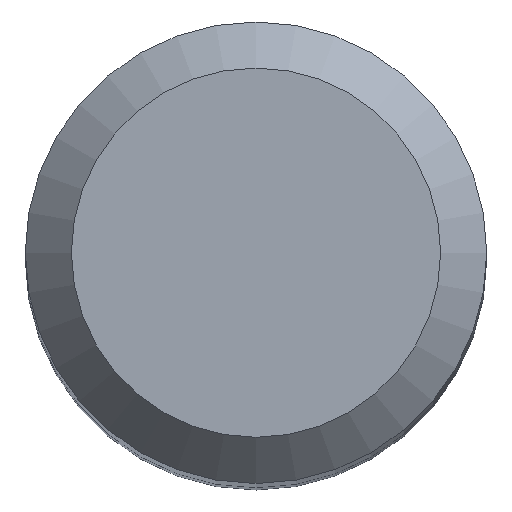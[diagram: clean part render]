
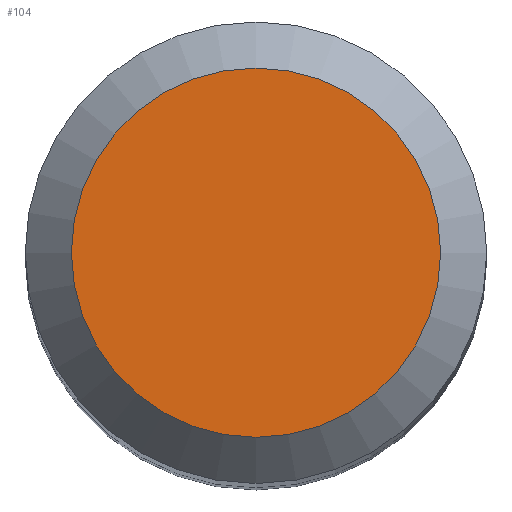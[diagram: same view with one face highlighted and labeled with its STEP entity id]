
A CAD part, top view. The second image highlights one B-rep face of the part: STEP entity #104.
In plain terms, the highlighted planar face has unit normal (0, 0, 1).
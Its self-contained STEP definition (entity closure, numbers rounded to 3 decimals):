
#88=CARTESIAN_POINT('',(3.2,0.0,65.0));
#89=DIRECTION('',(0.0,0.0,1.0));
#90=DIRECTION('',(1.0,0.0,0.0));
#91=AXIS2_PLACEMENT_3D('',#88,#89,#90);
#92=PLANE('',#91);
#93=CARTESIAN_POINT('',(-3.2,0.0,65.0));
#94=VERTEX_POINT('',#93);
#95=CARTESIAN_POINT('',(0.0,0.0,65.0));
#96=DIRECTION('',(0.0,0.0,-1.0));
#97=DIRECTION('',(-1.0,0.0,0.0));
#98=AXIS2_PLACEMENT_3D('',#95,#96,#97);
#99=CIRCLE('',#98,3.2);
#100=EDGE_CURVE('',#94,#94,#99,.T.);
#101=ORIENTED_EDGE('',*,*,#100,.F.);
#102=EDGE_LOOP('',(#101));
#103=FACE_OUTER_BOUND('',#102,.T.);
#104=ADVANCED_FACE('',(#103),#92,.T.);
